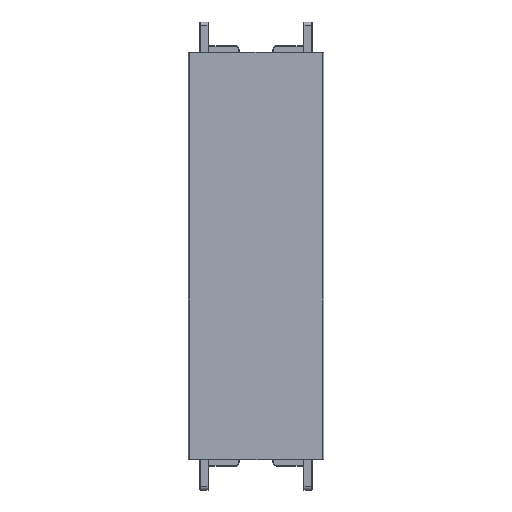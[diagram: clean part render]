
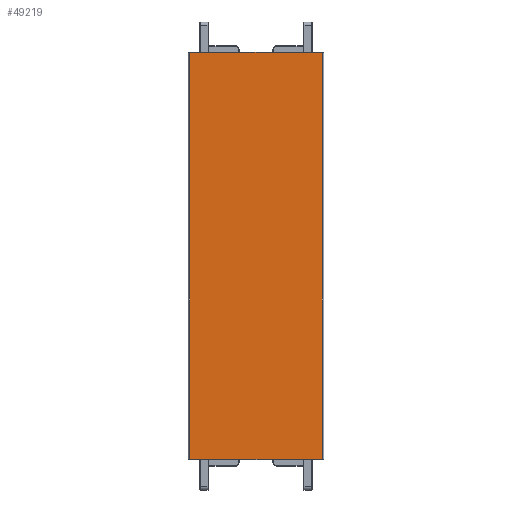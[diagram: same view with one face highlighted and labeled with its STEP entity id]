
A CAD part, top view. The second image highlights one B-rep face of the part: STEP entity #49219.
In plain terms, the highlighted planar face has unit normal (0, 0, 1) as drawn and (0, 0, -1) by its records, which use the part's own axes.
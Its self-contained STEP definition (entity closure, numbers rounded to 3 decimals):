
#389 = VERTEX_POINT ( 'NONE', #25933 ) ;
#908 = DIRECTION ( 'NONE',  ( 1., 0., 0. ) ) ;
#4747 = VERTEX_POINT ( 'NONE', #51857 ) ;
#5336 = LINE ( 'NONE', #9748, #7319 ) ;
#5703 = LINE ( 'NONE', #18074, #7747 ) ;
#7202 = DIRECTION ( 'NONE',  ( -1., 0., 0. ) ) ;
#7319 = VECTOR ( 'NONE', #908, 1000. ) ;
#7747 = VECTOR ( 'NONE', #41712, 1000. ) ;
#9557 = CARTESIAN_POINT ( 'NONE',  ( -19.5, -59.9, -2.5 ) ) ;
#9748 = CARTESIAN_POINT ( 'NONE',  ( 19.5, 59.9, -2.5 ) ) ;
#16649 = DIRECTION ( 'NONE',  ( 0., 1., 0. ) ) ;
#18074 = CARTESIAN_POINT ( 'NONE',  ( 19.5, -60., -2.5 ) ) ;
#18123 = FACE_OUTER_BOUND ( 'NONE', #23693, .T. ) ;
#23330 = ORIENTED_EDGE ( 'NONE', *, *, #41641, .T. ) ;
#23438 = ORIENTED_EDGE ( 'NONE', *, *, #45505, .T. ) ;
#23693 = EDGE_LOOP ( 'NONE', ( #23330, #32849, #23438, #36799 ) ) ;
#25933 = CARTESIAN_POINT ( 'NONE',  ( 19.5, -59.9, -2.5 ) ) ;
#26370 = LINE ( 'NONE', #57140, #56670 ) ;
#27275 = DIRECTION ( 'NONE',  ( 1., 0., 0. ) ) ;
#31725 = DIRECTION ( 'NONE',  ( 0., 0., 1. ) ) ;
#32001 = CARTESIAN_POINT ( 'NONE',  ( 19.5, 59.9, -2.5 ) ) ;
#32849 = ORIENTED_EDGE ( 'NONE', *, *, #52212, .T. ) ;
#36759 = CARTESIAN_POINT ( 'NONE',  ( 0., 0., -2.5 ) ) ;
#36799 = ORIENTED_EDGE ( 'NONE', *, *, #57985, .T. ) ;
#41641 = EDGE_CURVE ( 'NONE', #56584, #4747, #26370, .T. ) ;
#41712 = DIRECTION ( 'NONE',  ( 0., -1., 0. ) ) ;
#45505 = EDGE_CURVE ( 'NONE', #56569, #389, #5703, .T. ) ;
#45918 = PLANE ( 'NONE',  #52415 ) ;
#47967 = CARTESIAN_POINT ( 'NONE',  ( -19.5, -59.9, -2.5 ) ) ;
#48542 = LINE ( 'NONE', #47967, #57440 ) ;
#49219 = ADVANCED_FACE ( 'NONE', ( #18123 ), #45918, .F. ) ;
#51857 = CARTESIAN_POINT ( 'NONE',  ( -19.5, 59.9, -2.5 ) ) ;
#52212 = EDGE_CURVE ( 'NONE', #4747, #56569, #5336, .T. ) ;
#52415 = AXIS2_PLACEMENT_3D ( 'NONE', #36759, #31725, #27275 ) ;
#56569 = VERTEX_POINT ( 'NONE', #32001 ) ;
#56584 = VERTEX_POINT ( 'NONE', #9557 ) ;
#56670 = VECTOR ( 'NONE', #16649, 1000. ) ;
#57140 = CARTESIAN_POINT ( 'NONE',  ( -19.5, 60., -2.5 ) ) ;
#57440 = VECTOR ( 'NONE', #7202, 1000. ) ;
#57985 = EDGE_CURVE ( 'NONE', #389, #56584, #48542, .T. ) ;
